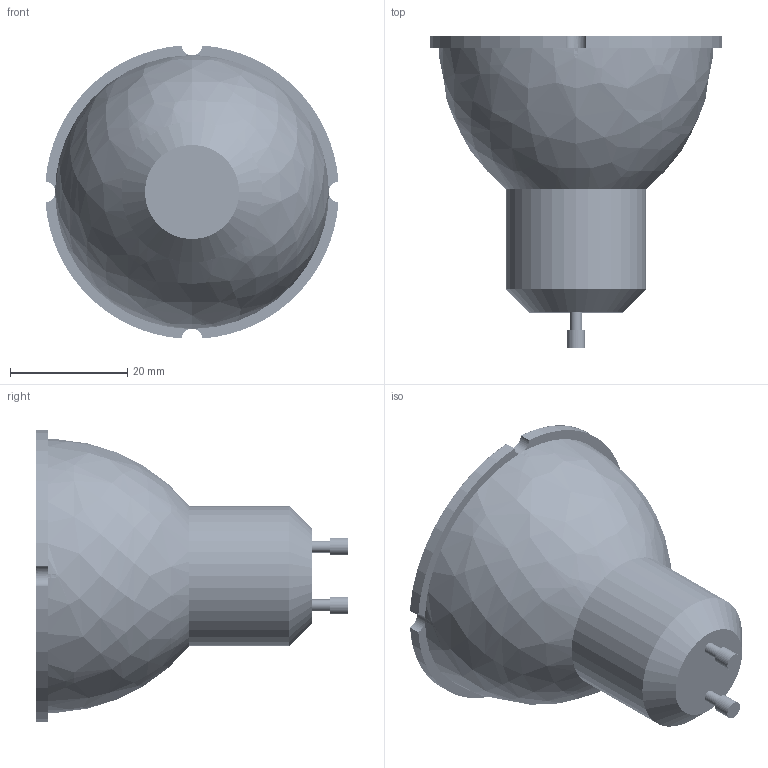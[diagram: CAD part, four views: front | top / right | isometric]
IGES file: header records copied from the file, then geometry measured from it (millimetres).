
Start section: SolidWorks IGES file using analytic representation for surfaces
Global section: file name: Z:\Modele 3D_WWW\_KOLEKCJE_WWW\REFLECTOR\REFLECTOR-LED-GU10-8348-8347-9178-9180\REFLECTOR-LED-GU10-8348-8347-9178-9180.IGS; native system: SolidWorks 2021; preprocessor: SolidWorks 2021; author: gabriela.tworek; date: 210818.141722; units: millimetre
Bounding box: 49.88 x 53 x 49.88 mm (x, y, z)
Surface area: 17845 mm2 (no closed solid volume)
Topology: 0 solids, 0 shells, 2005 faces, 28200 edges, 28200 vertices
Faces by surface type: revolution 1294, bspline 711
